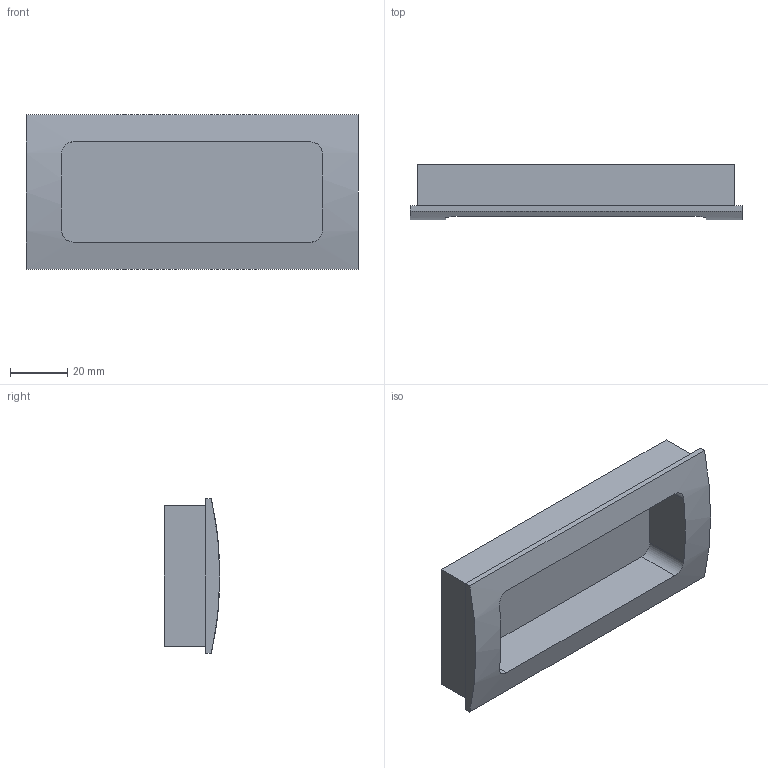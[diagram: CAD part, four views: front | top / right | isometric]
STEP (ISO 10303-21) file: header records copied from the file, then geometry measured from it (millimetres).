
FILE_DESCRIPTION( ( '' ), '1' );
FILE_NAME( 'C:/Documents and Settings/Sachin/Desktop/Sheet 10_1/stp/115181.stp', '2013-10-22T05:52:52', ( '' ), ( '' ), ' ', ' ', ' ' );
FILE_SCHEMA( ( 'CONFIG_CONTROL_DESIGN' ) );
Length unit declared in the file: millimetre
Products named in the file (1): 1
Bounding box: 116 x 19.5 x 54 mm (x, y, z)
Volume: 49451.3 mm3; surface area: 22398.7 mm2
Topology: 1 solids, 1 shells, 26 faces, 60 edges, 40 vertices
Faces by surface type: plane 17, cylinder 9
Entity records: 844 total; most frequent: CARTESIAN_POINT 195, DIRECTION 126, ORIENTED_EDGE 120, EDGE_CURVE 60, AXIS2_PLACEMENT_3D 43, VERTEX_POINT 40, LINE 40, VECTOR 40
